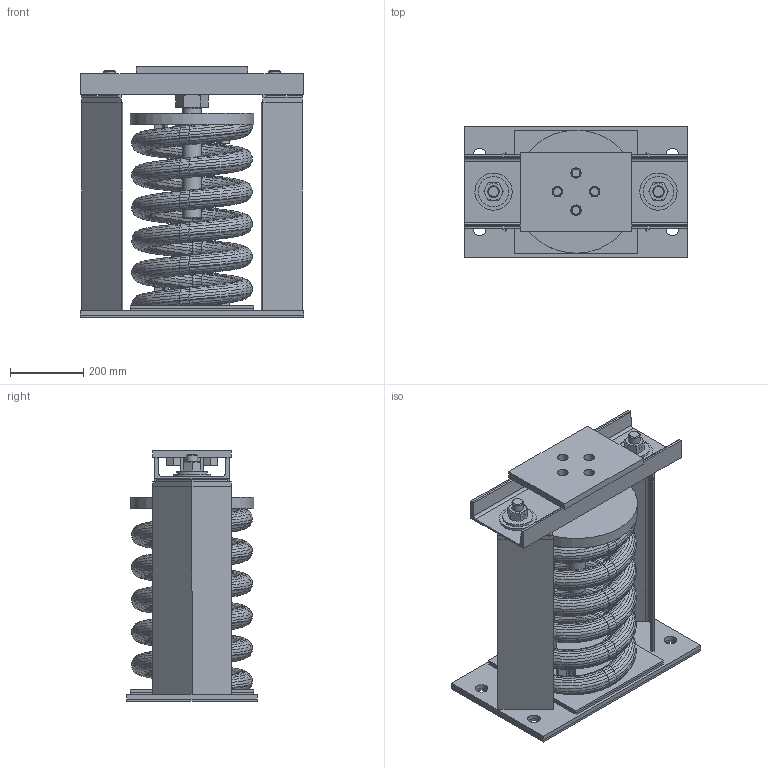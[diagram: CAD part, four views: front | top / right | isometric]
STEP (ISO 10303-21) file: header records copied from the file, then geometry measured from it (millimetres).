
FILE_DESCRIPTION(/* description */ (''),/* implementation_level */ '2;1');
FILE_NAME(/* name */ 'X:\STEP\SLR 100 SERIES\SLR-198.stp',/* time_stamp */ '2020-04-24T17:56:21-04:00',/* author */ ('Raj Ramoutar'),/* organization */ (''),/* preprocessor_version */ 'ST-DEVELOPER v17.2',/* originating_system */ 'Autodesk Inventor 2019',/* authorisation */ '');
FILE_SCHEMA (('AUTOMOTIVE_DESIGN { 1 0 10303 214 3 1 1 }'));
Products named in the file (1): SLR-198 PER A-29064-2_Shrinkwrap_1
Bounding box: 609.6 x 355.6 x 685.8 mm (x, y, z)
Volume: 16809157.1 mm3; surface area: 3704167 mm2
Topology: 1 solids, 3 shells, 970 faces, 2175 edges, 1237 vertices
Faces by surface type: bspline 502, plane 276, cone 118, cylinder 71, torus 3
Full cylindrical faces by diameter (mm): 9.525 x2, 12.7 x1, 21.971 x4, 28.575 x4, 31.75 x4, 32.436 x2, 33.337 x2, 34.925 x8, 47.625 x2, 50.8 x4, 53.975 x1, 57.15 x2, 82.55 x2, 101.6 x2, 336.55 x1
Entity records: 48697 total; most frequent: CARTESIAN_POINT 30259, ORIENTED_EDGE 4348, DIRECTION 2221, EDGE_CURVE 2174, VERTEX_POINT 1237, EDGE_LOOP 1029, B_SPLINE_CURVE_WITH_KNOTS 1012, STYLED_ITEM 971
